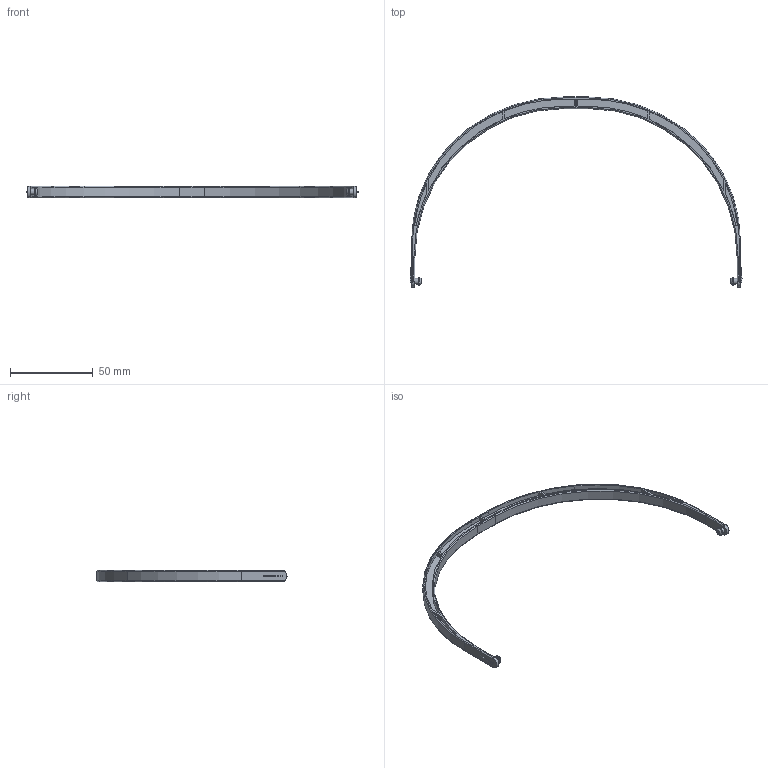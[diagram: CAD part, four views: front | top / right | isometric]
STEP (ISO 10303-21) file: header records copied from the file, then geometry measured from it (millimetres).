
FILE_DESCRIPTION(('STEP AP203'), '1');
FILE_NAME('Ðó÷êà 3ë.', '', ('UNSPECIFIED'), ('UNSPECIFIED'), 'C3D Converter', 'C3D Toolkit', '');
FILE_SCHEMA(('CONFIG_CONTROL_DESIGN'));
Length unit declared in the file: millimetre
Products named in the file (1): 169.09-00-03
Bounding box: 200.9 x 115 x 7 mm (x, y, z)
Volume: 7953.9 mm3; surface area: 11422.6 mm2
Topology: 1 solids, 1 shells, 140 faces, 334 edges, 214 vertices
Faces by surface type: plane 62, cylinder 32, cone 30, torus 16
Full cylindrical faces by diameter (mm): 3.5 x2, 5 x2
Entity records: 4629 total; most frequent: CARTESIAN_POINT 1055, DIRECTION 704, ORIENTED_EDGE 648, EDGE_CURVE 324, AXIS2_PLACEMENT_3D 271, VERTEX_POINT 214, EDGE_LOOP 168, LINE 162
